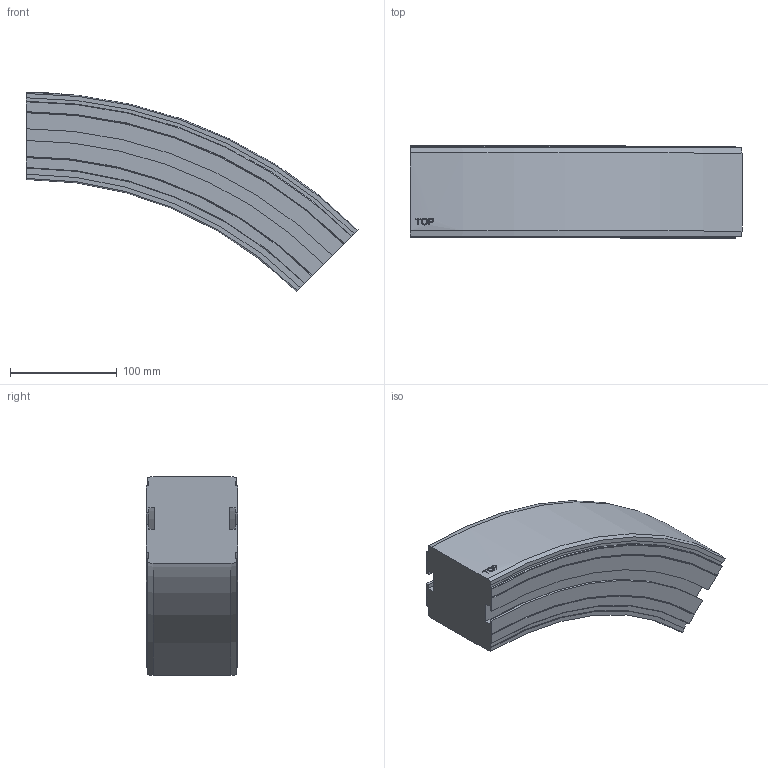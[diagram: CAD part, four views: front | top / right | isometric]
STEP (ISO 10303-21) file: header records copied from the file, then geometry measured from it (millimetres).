
FILE_DESCRIPTION((''),'2;1');
FILE_NAME('C:\Vault Klient\Projekt\Koncept konstruktion\Serie 830 Balk\830-5620_DOWN.stp','2009-11-27T10:45:34',('Mathias'),(''),'Autodesk Inventor 2010','Autodesk Inventor 2010','');
FILE_SCHEMA(('AUTOMOTIVE_DESIGN { 1 0 10303 214 1 1 1 1 }'));
Length unit declared in the file: millimetre
Products named in the file (1): 830-5620_DOWN
Bounding box: 310.77 x 86 x 186.36 mm (x, y, z)
Volume: 2081693.7 mm3; surface area: 141342.5 mm2
Topology: 1 solids, 1 shells, 93 faces, 258 edges, 172 vertices
Faces by surface type: plane 40, cylinder 23, bspline 14, cone 12, torus 4
Entity records: 3397 total; most frequent: CARTESIAN_POINT 962, ORIENTED_EDGE 516, DIRECTION 472, EDGE_CURVE 258, VERTEX_POINT 172, AXIS2_PLACEMENT_3D 162, VECTOR 148, LINE 148
